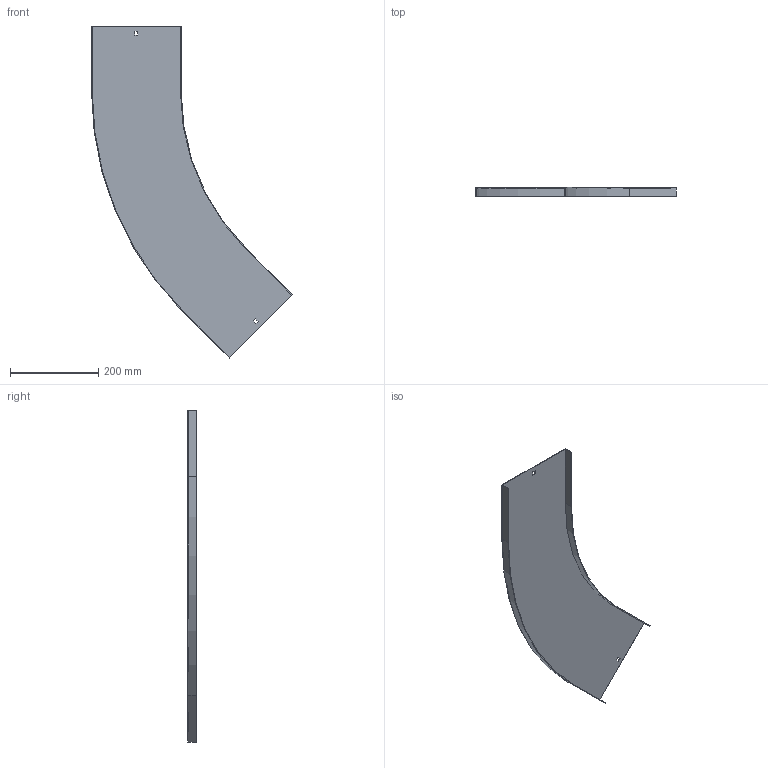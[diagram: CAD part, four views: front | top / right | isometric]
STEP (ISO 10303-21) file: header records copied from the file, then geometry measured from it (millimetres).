
FILE_DESCRIPTION (( 'STEP AP214' ), '1' );
FILE_NAME ('11N5R200.step', '2025-02-21T14:26:34', ( '' ), ( '' ), 'SwSTEP 2.0', 'SolidWorks 2023', '' );
FILE_SCHEMA (( 'AUTOMOTIVE_DESIGN' ));
Length unit declared in the file: millimetre
Products named in the file (1): 11N5R200
Bounding box: 455.07 x 20 x 752.1 mm (x, y, z)
Volume: 277470.5 mm3; surface area: 373087.4 mm2
Topology: 1 solids, 1 shells, 26 faces, 72 edges, 48 vertices
Faces by surface type: plane 22, cylinder 4
Entity records: 855 total; most frequent: CARTESIAN_POINT 147, ORIENTED_EDGE 144, DIRECTION 134, EDGE_CURVE 72, VECTOR 64, LINE 64, VERTEX_POINT 48, AXIS2_PLACEMENT_3D 35
